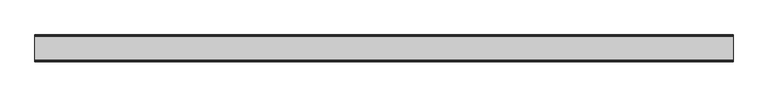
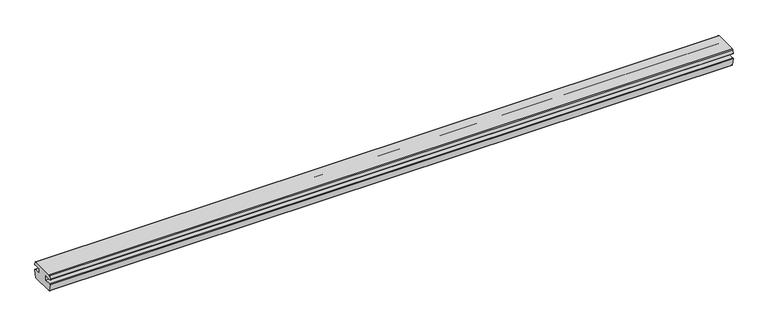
"""IFC4 building model written with IfcOpenShell, lengths in millimetres: proxy geometry, Weiku - Montante - Divisor fixo 02.2.01.041 : Weiku - Montante - Divisor fixo 02.2.01.041."""

from ifc_helpers import new_model, si_unit, point, frame, frame_2d, origin, place, context, project, spatial, polyline, circle_curve, trimmed, segment, composite_curve, outline, extrude, source, transform, mapped, element, save


def generic_models_cd1f2cea(model_context):
    return source(origin(), model_context, "Body", "SweptSolid", [
        extrude(outline(composite_curve([segment(polyline([(-33.0007245, 50.0), (33.0007245, 50.0)]), True, "CONTINUOUS"), segment(trimmed(circle_curve(frame_2d((33.0007245, 47.0)), 3.0), [point((33.0007245, 50.0))], [point((35.898502, 47.7764571))], False, "CARTESIAN"), True, "CONTINUOUS"), segment(polyline([(35.898502, 47.7764571), (38.4496907, 38.2552914)]), True, "CONTINUOUS"), segment(trimmed(circle_curve(frame_2d((37.8701352, 38.1)), 0.6), [point((38.4496907, 38.2552914))], [point((37.8701352, 37.5))], False, "CARTESIAN"), True, "CONTINUOUS"), segment(polyline([(37.8701352, 37.5), (17.5004577, 37.5), (17.5004577, 23.5), (37.5139562, 23.5)]), True, "CONTINUOUS"), segment(trimmed(circle_curve(frame_2d((37.5139562, 22.5)), 1.0), [point((37.5139562, 23.5))], [point((38.5006041, 22.3371317))], False, "CARTESIAN"), True, "CONTINUOUS"), segment(polyline([(38.5006041, 22.3371317), (34.9515483, 0.8371317)]), True, "CONTINUOUS"), segment(trimmed(circle_curve(frame_2d((33.9649005, 1.0)), 1.0), [point((34.9515483, 0.8371317))], [point((33.9649005, 0.0))], False, "CARTESIAN"), True, "CONTINUOUS"), segment(polyline([(33.9649005, 0.0), (-33.9649005, 0.0)]), True, "CONTINUOUS"), segment(trimmed(circle_curve(frame_2d((-33.9649005, 1.0)), 1.0), [point((-33.9649005, 0.0))], [point((-34.9515483, 0.8371317))], False, "CARTESIAN"), True, "CONTINUOUS"), segment(polyline([(-34.9515483, 0.8371317), (-38.5006041, 22.3371317)]), True, "CONTINUOUS"), segment(trimmed(circle_curve(frame_2d((-37.5139562, 22.5)), 1.0), [point((-38.5006041, 22.3371317))], [point((-37.5139562, 23.5))], False, "CARTESIAN"), True, "CONTINUOUS"), segment(polyline([(-37.5139562, 23.5), (-17.5004577, 23.5), (-17.5004577, 37.5), (-37.8701352, 37.5)]), True, "CONTINUOUS"), segment(trimmed(circle_curve(frame_2d((-37.8701352, 38.1)), 0.6), [point((-37.8701352, 37.5))], [point((-38.4496907, 38.2552914))], False, "CARTESIAN"), True, "CONTINUOUS"), segment(polyline([(-38.4496907, 38.2552914), (-35.898502, 47.7764571)]), True, "CONTINUOUS"), segment(trimmed(circle_curve(frame_2d((-33.0007245, 47.0)), 3.0), [point((-35.898502, 47.7764571))], [point((-33.0007245, 50.0))], False, "CARTESIAN"), True, "CONTINUOUS")], self_intersect=False)), frame((-1003.5, 0.0, 0.0), z_axis=(1.0, 0.0, 0.0), x_axis=(0.0, 1.0, 0.0)), (0.0, 0.0, 1.0), 2007.0),
    ])


if __name__ == "__main__":
    model = new_model("IFC4")
    model_context = context("Model", 3, world=origin())
    ifc_project = project(units=[si_unit("LENGTHUNIT", "METRE", prefix="MILLI")], contexts=[model_context])
    site = spatial("IfcSite", under=ifc_project)
    building = spatial("IfcBuilding", under=site)
    placement = place(None, origin())
    generic_models_shape = generic_models_cd1f2cea(model_context)
    element("IfcBuildingElementProxy", 1, Name="Weiku - Montante - Divisor fixo 02.2.01.041 : Weiku - Montante - Divisor fixo 02.2.01.041", ObjectType="Weiku - Montante - Divisor fixo 02.2.01.041 : Weiku - Montante - Divisor fixo 02.2.01.041", at=placement, inside=building, context=model_context, shape_type="MappedRepresentation", body=[
        mapped(generic_models_shape, transform((0.0, 0.0, 0.0), x_axis=(1.0, 0.0, 0.0), y_axis=(0.0, 1.0, 0.0), z_axis=(0.0, 0.0, 1.0))),
    ])
    save(model, "model.ifc")
